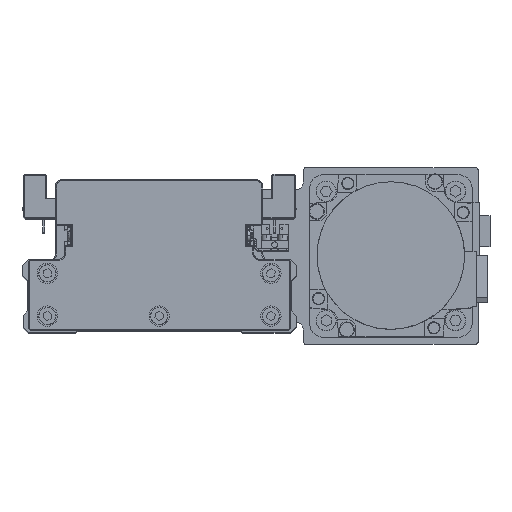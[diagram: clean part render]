
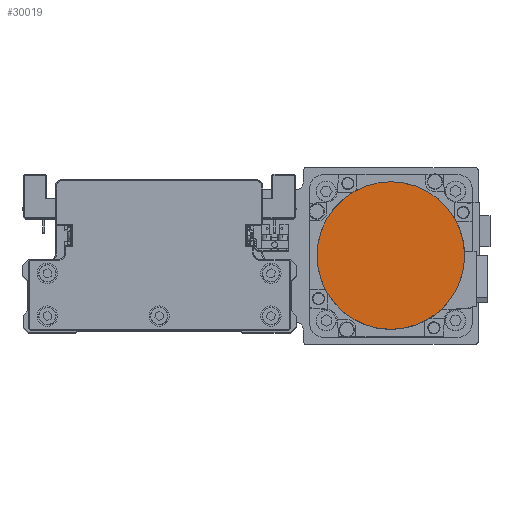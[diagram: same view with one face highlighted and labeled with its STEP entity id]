
A CAD part, top view. The second image highlights one B-rep face of the part: STEP entity #30019.
In plain terms, the highlighted planar face has unit normal (0, 0, 1) as drawn and (0, 0, -1) by its records, which use the part's own axes.
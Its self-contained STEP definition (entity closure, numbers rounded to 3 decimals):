
#1175 = DIRECTION ( 'NONE',  ( 1., 0., 0. ) ) ;
#1832 = CARTESIAN_POINT ( 'NONE',  ( 0., 0., -122.2 ) ) ;
#4151 = PLANE ( 'NONE',  #33518 ) ;
#5046 = VERTEX_POINT ( 'NONE', #26172 ) ;
#7539 = ORIENTED_EDGE ( 'NONE', *, *, #32924, .F. ) ;
#8085 = AXIS2_PLACEMENT_3D ( 'NONE', #1832, #13912, #25979 ) ;
#8560 = EDGE_CURVE ( 'NONE', #5046, #8805, #38081, .T. ) ;
#8805 = VERTEX_POINT ( 'NONE', #34272 ) ;
#11572 = DIRECTION ( 'NONE',  ( 0., 0., 1. ) ) ;
#13912 = DIRECTION ( 'NONE',  ( 0., 0., 1. ) ) ;
#16219 = CARTESIAN_POINT ( 'NONE',  ( 0., 0., -122.2 ) ) ;
#19731 = ORIENTED_EDGE ( 'NONE', *, *, #8560, .F. ) ;
#21046 = AXIS2_PLACEMENT_3D ( 'NONE', #38642, #11572, #23650 ) ;
#23650 = DIRECTION ( 'NONE',  ( 0., -1., 0. ) ) ;
#25130 = CIRCLE ( 'NONE', #8085, 36.3 ) ;
#25979 = DIRECTION ( 'NONE',  ( 0., 1., 0. ) ) ;
#26172 = CARTESIAN_POINT ( 'NONE',  ( 0., -36.3, -122.2 ) ) ;
#28062 = EDGE_LOOP ( 'NONE', ( #7539, #19731 ) ) ;
#28292 = DIRECTION ( 'NONE',  ( 0., 0., 1. ) ) ;
#30019 = ADVANCED_FACE ( 'NONE', ( #31255 ), #4151, .F. ) ;
#31255 = FACE_OUTER_BOUND ( 'NONE', #28062, .T. ) ;
#32924 = EDGE_CURVE ( 'NONE', #8805, #5046, #25130, .T. ) ;
#33518 = AXIS2_PLACEMENT_3D ( 'NONE', #16219, #28292, #1175 ) ;
#34272 = CARTESIAN_POINT ( 'NONE',  ( 0., 36.3, -122.2 ) ) ;
#38081 = CIRCLE ( 'NONE', #21046, 36.3 ) ;
#38642 = CARTESIAN_POINT ( 'NONE',  ( 0., 0., -122.2 ) ) ;
